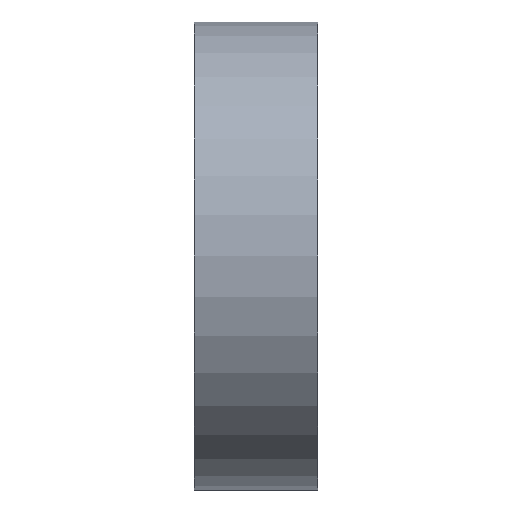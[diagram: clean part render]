
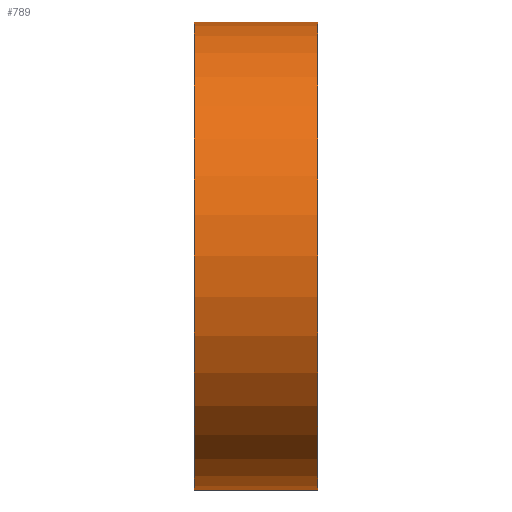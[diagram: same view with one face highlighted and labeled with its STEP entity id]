
A CAD part, front view. The second image highlights one B-rep face of the part: STEP entity #789.
In plain terms, the highlighted cylindrical face has radius 241.3 mm (diameter 482.6 mm), a full revolution.
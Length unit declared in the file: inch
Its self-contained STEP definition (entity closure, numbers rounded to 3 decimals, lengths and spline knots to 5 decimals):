
#757=CARTESIAN_POINT('',(112.91139,121.97152,0.));
#758=VERTEX_POINT('',#757);
#759=CARTESIAN_POINT('',(112.91139,112.47152,0.));
#760=DIRECTION('',(-1.,0.,0.));
#761=DIRECTION('',(0.,1.,0.));
#762=AXIS2_PLACEMENT_3D('',#759,#760,#761);
#763=CIRCLE('',#762,9.5);
#764=EDGE_CURVE('',#758,#758,#763,.T.);
#765=ORIENTED_EDGE('',*,*,#764,.F.);
#766=CARTESIAN_POINT('',(117.91139,121.97152,0.));
#767=VERTEX_POINT('',#766);
#768=CARTESIAN_POINT('',(115.41139,121.97152,0.));
#769=DIRECTION('',(-1.,0.,0.));
#770=VECTOR('',#769,9.5);
#771=LINE('',#768,#770);
#772=EDGE_CURVE('',#767,#758,#771,.T.);
#773=ORIENTED_EDGE('',*,*,#772,.F.);
#774=CARTESIAN_POINT('',(117.91139,112.47152,0.));
#775=DIRECTION('',(-1.,0.,0.));
#776=DIRECTION('',(0.,1.,0.));
#777=AXIS2_PLACEMENT_3D('',#774,#775,#776);
#778=CIRCLE('',#777,9.5);
#779=EDGE_CURVE('',#767,#767,#778,.T.);
#780=ORIENTED_EDGE('',*,*,#779,.T.);
#781=ORIENTED_EDGE('',*,*,#772,.T.);
#782=EDGE_LOOP('',(#765,#773,#780,#781));
#783=FACE_OUTER_BOUND('',#782,.T.);
#784=CARTESIAN_POINT('',(115.41139,112.47152,0.));
#785=DIRECTION('',(-1.,0.,0.));
#786=DIRECTION('',(0.,1.,0.));
#787=AXIS2_PLACEMENT_3D('',#784,#785,#786);
#788=CYLINDRICAL_SURFACE('',#787,9.5);
#789=ADVANCED_FACE('',(#783),#788,.T.);
